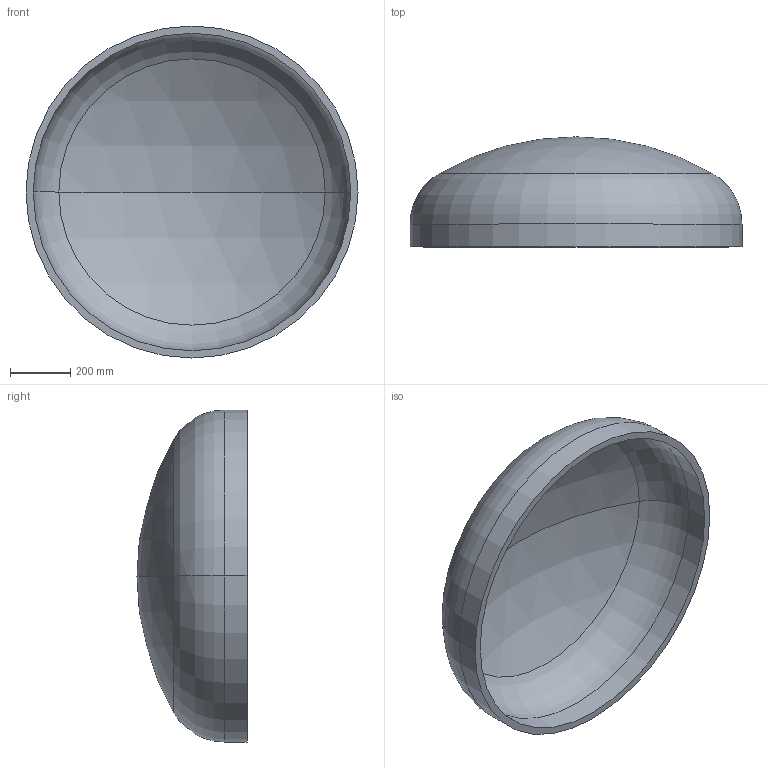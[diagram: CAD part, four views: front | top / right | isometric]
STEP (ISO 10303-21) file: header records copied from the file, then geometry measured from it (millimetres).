
FILE_DESCRIPTION (( 'STEP AP203' ), '1' );
FILE_NAME ('DIN 28013 Korbbogenform_-_Boden DIN 28013 - 1100 x 75 - I - s=24.step', '2016-07-01T09:03:56', ( '' ), ( '' ), 'SwSTEP 2.0', 'SolidWorks 2013', '' );
FILE_SCHEMA (( 'CONFIG_CONTROL_DESIGN' ));
Length unit declared in the file: millimetre
Products named in the file (1): DIN 28013 Korbbogenform_-_Boden DIN 28013 - 1100 x 75 - I - s=24
Bounding box: 1100 x 364.7 x 1100 mm (x, y, z)
Volume: 36801681.7 mm3; surface area: 3149140.7 mm2
Topology: 1 solids, 1 shells, 13 faces, 24 edges, 14 vertices
Faces by surface type: torus 4, cylinder 4, sphere 4, plane 1
Entity records: 407 total; most frequent: DIRECTION 72, CARTESIAN_POINT 52, ORIENTED_EDGE 48, AXIS2_PLACEMENT_3D 34, EDGE_CURVE 24, CIRCLE 20, EDGE_LOOP 14, VERTEX_POINT 14
